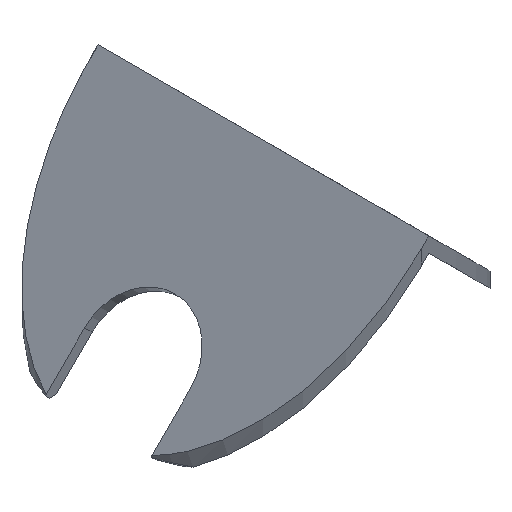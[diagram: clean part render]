
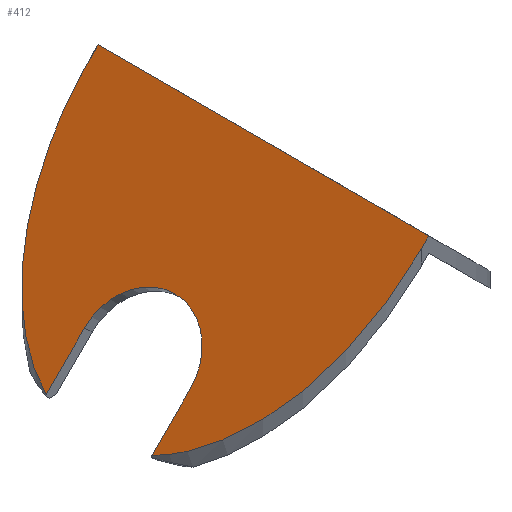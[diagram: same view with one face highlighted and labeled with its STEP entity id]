
A CAD part, isometric view. The second image highlights one B-rep face of the part: STEP entity #412.
In plain terms, the highlighted planar face has unit normal (-0.707, 0, 0.707).
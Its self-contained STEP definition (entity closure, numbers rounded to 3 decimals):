
#171 = VERTEX_POINT('',#172);
#172 = CARTESIAN_POINT('',(1.061,23.461,24.061)
  );
#178 = EDGE_CURVE('',#179,#171,#181,.T.);
#179 = VERTEX_POINT('',#180);
#180 = CARTESIAN_POINT('',(1.061,-23.476,24.061)
  );
#181 = LINE('',#182,#183);
#182 = CARTESIAN_POINT('',(1.061,-23.5,24.061));
#183 = VECTOR('',#184,1.);
#184 = DIRECTION('',(0.,1.,0.));
#256 = VERTEX_POINT('',#257);
#257 = CARTESIAN_POINT('',(0.,-23.5,23.));
#263 = EDGE_CURVE('',#179,#256,#264,.T.);
#264 = ELLIPSE('',#265,33.234,23.5);
#265 = AXIS2_PLACEMENT_3D('',#266,#267,#268);
#266 = CARTESIAN_POINT('',(0.,0.,23.));
#267 = DIRECTION('',(0.707,0.,-0.707));
#268 = DIRECTION('',(-0.707,0.,-0.707));
#373 = EDGE_CURVE('',#171,#374,#376,.T.);
#374 = VERTEX_POINT('',#375);
#375 = CARTESIAN_POINT('',(-1.362,23.461,21.638
    ));
#376 = LINE('',#377,#378);
#377 = CARTESIAN_POINT('',(1.061,23.461,24.061)
  );
#378 = VECTOR('',#379,1.);
#379 = DIRECTION('',(-0.707,0.,-0.707));
#412 = ADVANCED_FACE('',(#413),#459,.F.);
#413 = FACE_BOUND('',#414,.F.);
#414 = EDGE_LOOP('',(#415,#424,#432,#441,#449,#456,#457,#458));
#415 = ORIENTED_EDGE('',*,*,#416,.T.);
#416 = EDGE_CURVE('',#256,#417,#419,.T.);
#417 = VERTEX_POINT('',#418);
#418 = CARTESIAN_POINT('',(-22.271,-7.501,
    0.729));
#419 = ELLIPSE('',#420,33.234,23.5);
#420 = AXIS2_PLACEMENT_3D('',#421,#422,#423);
#421 = CARTESIAN_POINT('',(0.,0.,23.));
#422 = DIRECTION('',(0.707,0.,-0.707));
#423 = DIRECTION('',(-0.707,0.,-0.707));
#424 = ORIENTED_EDGE('',*,*,#425,.T.);
#425 = EDGE_CURVE('',#417,#426,#428,.T.);
#426 = VERTEX_POINT('',#427);
#427 = CARTESIAN_POINT('',(-16.813,-7.501,
    6.187));
#428 = LINE('',#429,#430);
#429 = CARTESIAN_POINT('',(-22.405,-7.501,
    0.595));
#430 = VECTOR('',#431,1.);
#431 = DIRECTION('',(0.707,0.,0.707));
#432 = ORIENTED_EDGE('',*,*,#433,.T.);
#433 = EDGE_CURVE('',#426,#434,#436,.T.);
#434 = VERTEX_POINT('',#435);
#435 = CARTESIAN_POINT('',(-16.813,7.499,6.187
    ));
#436 = CIRCLE('',#437,7.5);
#437 = AXIS2_PLACEMENT_3D('',#438,#439,#440);
#438 = CARTESIAN_POINT('',(-16.813,-0.001,
    6.187));
#439 = DIRECTION('',(-0.707,0.,0.707));
#440 = DIRECTION('',(0.707,0.,0.707));
#441 = ORIENTED_EDGE('',*,*,#442,.F.);
#442 = EDGE_CURVE('',#443,#434,#445,.T.);
#443 = VERTEX_POINT('',#444);
#444 = CARTESIAN_POINT('',(-22.271,7.499,0.729
    ));
#445 = LINE('',#446,#447);
#446 = CARTESIAN_POINT('',(-22.392,7.499,0.608
    ));
#447 = VECTOR('',#448,1.);
#448 = DIRECTION('',(0.707,0.,0.707));
#449 = ORIENTED_EDGE('',*,*,#450,.T.);
#450 = EDGE_CURVE('',#443,#374,#451,.T.);
#451 = ELLIPSE('',#452,33.234,23.5);
#452 = AXIS2_PLACEMENT_3D('',#453,#454,#455);
#453 = CARTESIAN_POINT('',(0.,0.,23.));
#454 = DIRECTION('',(0.707,0.,-0.707));
#455 = DIRECTION('',(-0.707,0.,-0.707));
#456 = ORIENTED_EDGE('',*,*,#373,.F.);
#457 = ORIENTED_EDGE('',*,*,#178,.F.);
#458 = ORIENTED_EDGE('',*,*,#263,.T.);
#459 = PLANE('',#460);
#460 = AXIS2_PLACEMENT_3D('',#461,#462,#463);
#461 = CARTESIAN_POINT('',(-9.569,-0.021,
    13.431));
#462 = DIRECTION('',(0.707,0.,-0.707));
#463 = DIRECTION('',(0.707,0.,0.707));
